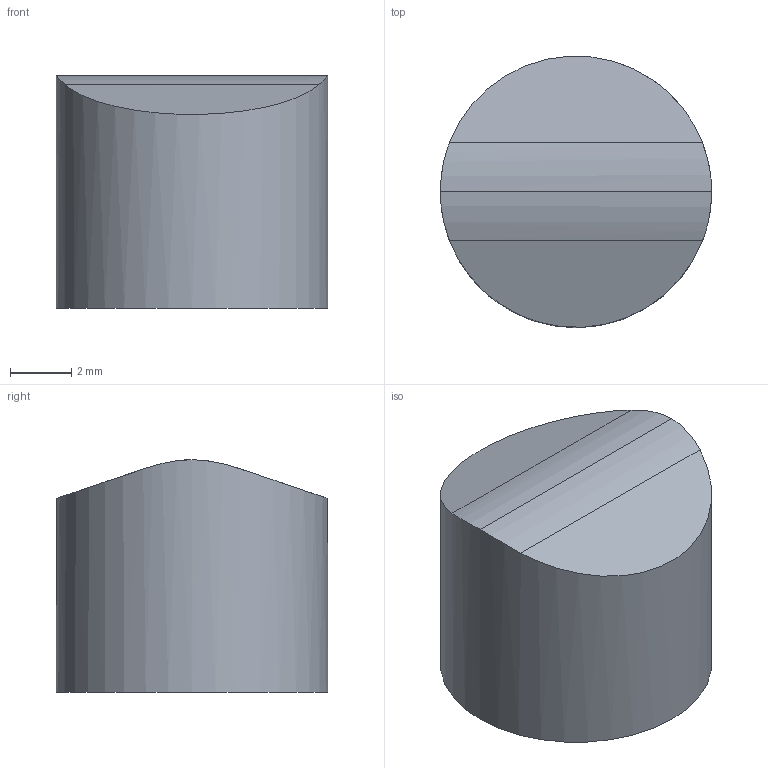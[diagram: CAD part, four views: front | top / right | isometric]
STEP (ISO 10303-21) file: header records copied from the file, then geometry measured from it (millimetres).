
FILE_DESCRIPTION(/* description */ ('Alibre Inc.'),/* implementation_level */ '2;1');
FILE_NAME(/* name */ 'export0',/* time_stamp */ '2011-07-18T13:05:41-04:00',/* author */ (''),/* organization */ (''),/* preprocessor_version */ 'ST-DEVELOPER v12',/* originating_system */ 'Alibre',/* authorisation */ '');
FILE_SCHEMA (('AUTOMOTIVE_DESIGN'));
Length unit declared in the file: centimetre
Bounding box: 8.89 x 8.89 x 7.62 mm (x, y, z)
Volume: 446 mm3; surface area: 318.9 mm2
Topology: 1 solids, 1 shells, 6 faces, 11 edges, 7 vertices
Faces by surface type: plane 3, bspline 2, cylinder 1
Full cylindrical faces by diameter (mm): 8.89 x1
Entity records: 185 total; most frequent: CARTESIAN_POINT 65, ORIENTED_EDGE 20, DIRECTION 14, EDGE_CURVE 10, VERTEX_POINT 7, EDGE_LOOP 7, FACE_BOUND 7, AXIS2_PLACEMENT_3D 7
